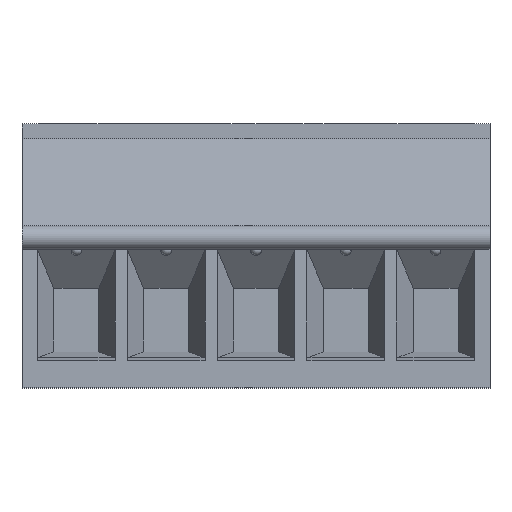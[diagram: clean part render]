
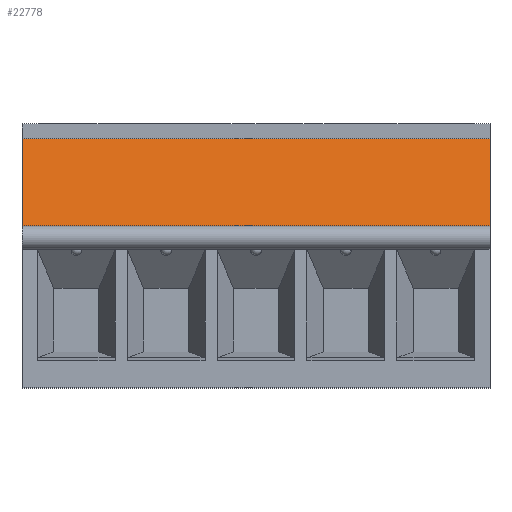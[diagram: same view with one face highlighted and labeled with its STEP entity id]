
A CAD part, top view. The second image highlights one B-rep face of the part: STEP entity #22778.
In plain terms, the highlighted planar face has unit normal (0, 0.249, 0.969).
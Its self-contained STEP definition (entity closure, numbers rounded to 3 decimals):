
#1711 = PLANE('',#1712);
#1712 = AXIS2_PLACEMENT_3D('',#1713,#1714,#1715);
#1713 = CARTESIAN_POINT('',(-19.84,-12.25,-10.621));
#1714 = DIRECTION('',(-1.,0.,0.));
#1715 = DIRECTION('',(0.,0.,1.));
#2265 = PLANE('',#2266);
#2266 = AXIS2_PLACEMENT_3D('',#2267,#2268,#2269);
#2267 = CARTESIAN_POINT('',(0.,-29.45,2.413));
#2268 = DIRECTION('',(1.,0.,0.));
#2269 = DIRECTION('',(0.,0.,-1.));
#6892 = VERTEX_POINT('',#6893);
#6893 = CARTESIAN_POINT('',(-19.84,4.2,-1.6));
#6907 = PLANE('',#6908);
#6908 = AXIS2_PLACEMENT_3D('',#6909,#6910,#6911);
#6909 = CARTESIAN_POINT('',(0.,4.2,-1.6));
#6910 = DIRECTION('',(0.,1.,0.));
#6911 = DIRECTION('',(0.,-0.,1.));
#6919 = EDGE_CURVE('',#6920,#6892,#6922,.T.);
#6920 = VERTEX_POINT('',#6921);
#6921 = CARTESIAN_POINT('',(-19.84,0.5,-0.65));
#6922 = SURFACE_CURVE('',#6923,(#6927,#6934),.PCURVE_S1.);
#6923 = LINE('',#6924,#6925);
#6924 = CARTESIAN_POINT('',(-19.84,0.5,-0.65));
#6925 = VECTOR('',#6926,1.);
#6926 = DIRECTION('',(0.,0.969,-0.249));
#6927 = PCURVE('',#1711,#6928);
#6928 = DEFINITIONAL_REPRESENTATION('',(#6929),#6933);
#6929 = LINE('',#6930,#6931);
#6930 = CARTESIAN_POINT('',(9.971,12.75));
#6931 = VECTOR('',#6932,1.);
#6932 = DIRECTION('',(-0.249,0.969));
#6933 = ( GEOMETRIC_REPRESENTATION_CONTEXT(2) 
PARAMETRIC_REPRESENTATION_CONTEXT() REPRESENTATION_CONTEXT('2D SPACE',''
  ) );
#6934 = PCURVE('',#6935,#6940);
#6935 = PLANE('',#6936);
#6936 = AXIS2_PLACEMENT_3D('',#6937,#6938,#6939);
#6937 = CARTESIAN_POINT('',(0.,0.5,-0.65));
#6938 = DIRECTION('',(0.,-0.249,-0.969));
#6939 = DIRECTION('',(0.,0.969,-0.249));
#6940 = DEFINITIONAL_REPRESENTATION('',(#6941),#6945);
#6941 = LINE('',#6942,#6943);
#6942 = CARTESIAN_POINT('',(0.,-19.84));
#6943 = VECTOR('',#6944,1.);
#6944 = DIRECTION('',(1.,0.));
#6945 = ( GEOMETRIC_REPRESENTATION_CONTEXT(2) 
PARAMETRIC_REPRESENTATION_CONTEXT() REPRESENTATION_CONTEXT('2D SPACE',''
  ) );
#6963 = PLANE('',#6964);
#6964 = AXIS2_PLACEMENT_3D('',#6965,#6966,#6967);
#6965 = CARTESIAN_POINT('',(0.,0.5,0.));
#6966 = DIRECTION('',(0.,-1.,0.));
#6967 = DIRECTION('',(0.,0.,-1.));
#22733 = EDGE_CURVE('',#22734,#6892,#22736,.T.);
#22734 = VERTEX_POINT('',#22735);
#22735 = CARTESIAN_POINT('',(0.,4.2,-1.6));
#22736 = SURFACE_CURVE('',#22737,(#22741,#22748),.PCURVE_S1.);
#22737 = LINE('',#22738,#22739);
#22738 = CARTESIAN_POINT('',(0.,4.2,-1.6));
#22739 = VECTOR('',#22740,1.);
#22740 = DIRECTION('',(-1.,0.,0.));
#22741 = PCURVE('',#6907,#22742);
#22742 = DEFINITIONAL_REPRESENTATION('',(#22743),#22747);
#22743 = LINE('',#22744,#22745);
#22744 = CARTESIAN_POINT('',(0.,0.));
#22745 = VECTOR('',#22746,1.);
#22746 = DIRECTION('',(0.,-1.));
#22747 = ( GEOMETRIC_REPRESENTATION_CONTEXT(2) 
PARAMETRIC_REPRESENTATION_CONTEXT() REPRESENTATION_CONTEXT('2D SPACE',''
  ) );
#22748 = PCURVE('',#6935,#22749);
#22749 = DEFINITIONAL_REPRESENTATION('',(#22750),#22754);
#22750 = LINE('',#22751,#22752);
#22751 = CARTESIAN_POINT('',(3.82,0.));
#22752 = VECTOR('',#22753,1.);
#22753 = DIRECTION('',(0.,-1.));
#22754 = ( GEOMETRIC_REPRESENTATION_CONTEXT(2) 
PARAMETRIC_REPRESENTATION_CONTEXT() REPRESENTATION_CONTEXT('2D SPACE',''
  ) );
#22778 = ADVANCED_FACE('',(#22779),#6935,.F.);
#22779 = FACE_BOUND('',#22780,.F.);
#22780 = EDGE_LOOP('',(#22781,#22804,#22805,#22806));
#22781 = ORIENTED_EDGE('',*,*,#22782,.T.);
#22782 = EDGE_CURVE('',#22783,#6920,#22785,.T.);
#22783 = VERTEX_POINT('',#22784);
#22784 = CARTESIAN_POINT('',(0.,0.5,-0.65));
#22785 = SURFACE_CURVE('',#22786,(#22790,#22797),.PCURVE_S1.);
#22786 = LINE('',#22787,#22788);
#22787 = CARTESIAN_POINT('',(0.,0.5,-0.65));
#22788 = VECTOR('',#22789,1.);
#22789 = DIRECTION('',(-1.,0.,0.));
#22790 = PCURVE('',#6935,#22791);
#22791 = DEFINITIONAL_REPRESENTATION('',(#22792),#22796);
#22792 = LINE('',#22793,#22794);
#22793 = CARTESIAN_POINT('',(0.,0.));
#22794 = VECTOR('',#22795,1.);
#22795 = DIRECTION('',(0.,-1.));
#22796 = ( GEOMETRIC_REPRESENTATION_CONTEXT(2) 
PARAMETRIC_REPRESENTATION_CONTEXT() REPRESENTATION_CONTEXT('2D SPACE',''
  ) );
#22797 = PCURVE('',#6963,#22798);
#22798 = DEFINITIONAL_REPRESENTATION('',(#22799),#22803);
#22799 = LINE('',#22800,#22801);
#22800 = CARTESIAN_POINT('',(0.65,0.));
#22801 = VECTOR('',#22802,1.);
#22802 = DIRECTION('',(0.,-1.));
#22803 = ( GEOMETRIC_REPRESENTATION_CONTEXT(2) 
PARAMETRIC_REPRESENTATION_CONTEXT() REPRESENTATION_CONTEXT('2D SPACE',''
  ) );
#22804 = ORIENTED_EDGE('',*,*,#6919,.T.);
#22805 = ORIENTED_EDGE('',*,*,#22733,.F.);
#22806 = ORIENTED_EDGE('',*,*,#22807,.F.);
#22807 = EDGE_CURVE('',#22783,#22734,#22808,.T.);
#22808 = SURFACE_CURVE('',#22809,(#22813,#22820),.PCURVE_S1.);
#22809 = LINE('',#22810,#22811);
#22810 = CARTESIAN_POINT('',(0.,0.5,-0.65));
#22811 = VECTOR('',#22812,1.);
#22812 = DIRECTION('',(0.,0.969,-0.249));
#22813 = PCURVE('',#6935,#22814);
#22814 = DEFINITIONAL_REPRESENTATION('',(#22815),#22819);
#22815 = LINE('',#22816,#22817);
#22816 = CARTESIAN_POINT('',(0.,0.));
#22817 = VECTOR('',#22818,1.);
#22818 = DIRECTION('',(1.,0.));
#22819 = ( GEOMETRIC_REPRESENTATION_CONTEXT(2) 
PARAMETRIC_REPRESENTATION_CONTEXT() REPRESENTATION_CONTEXT('2D SPACE',''
  ) );
#22820 = PCURVE('',#2265,#22821);
#22821 = DEFINITIONAL_REPRESENTATION('',(#22822),#22826);
#22822 = LINE('',#22823,#22824);
#22823 = CARTESIAN_POINT('',(3.063,29.95));
#22824 = VECTOR('',#22825,1.);
#22825 = DIRECTION('',(0.249,0.969));
#22826 = ( GEOMETRIC_REPRESENTATION_CONTEXT(2) 
PARAMETRIC_REPRESENTATION_CONTEXT() REPRESENTATION_CONTEXT('2D SPACE',''
  ) );
